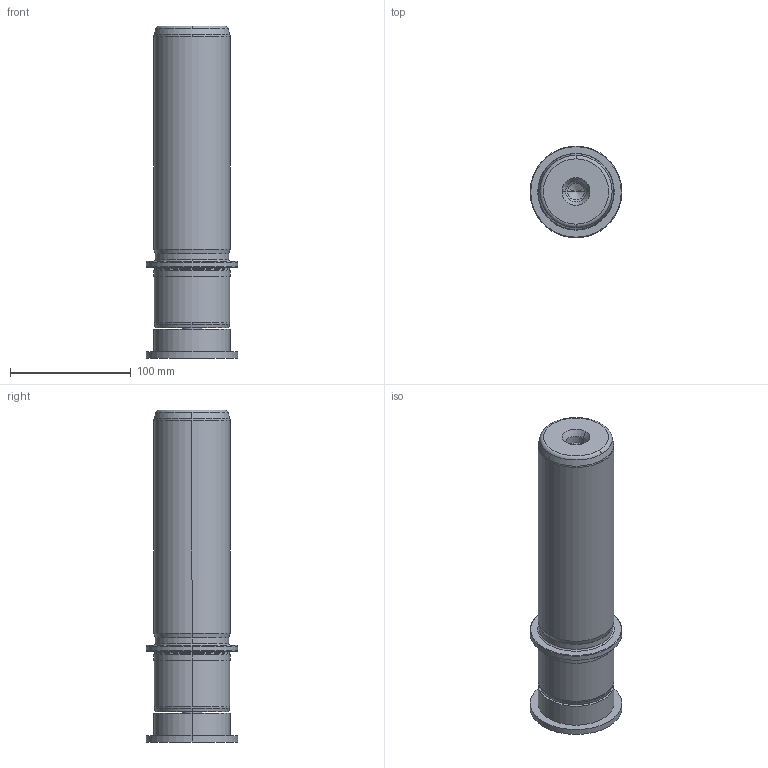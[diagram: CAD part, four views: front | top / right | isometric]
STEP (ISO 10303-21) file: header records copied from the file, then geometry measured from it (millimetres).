
FILE_DESCRIPTION((''),'2;1');
FILE_NAME('P22_063_200.stp','2009-02-06T15:51:21',(''),(''),'Mechanical Desktop 2009','Mechanical Desktop 2009',', , ');
FILE_SCHEMA(('CONFIG_CONTROL_DESIGN'));
Length unit declared in the file: millimetre
Products named in the file (2): Product; blmdl1
Assembly tree (1 placements, depth 2):
  Product
    blmdl1
Bounding box: 76 x 76 x 275 mm (x, y, z)
Volume: 850973.2 mm3; surface area: 81744.6 mm2
Topology: 3 solids, 3 shells, 99 faces, 237 edges, 149 vertices
Faces by surface type: cylinder 32, cone 28, plane 19, torus 10, bspline 10
Entity records: 3419 total; most frequent: CARTESIAN_POINT 923, DIRECTION 570, ORIENTED_EDGE 466, AXIS2_PLACEMENT_3D 246, EDGE_CURVE 233, CIRCLE 155, VERTEX_POINT 149, EDGE_LOOP 110
